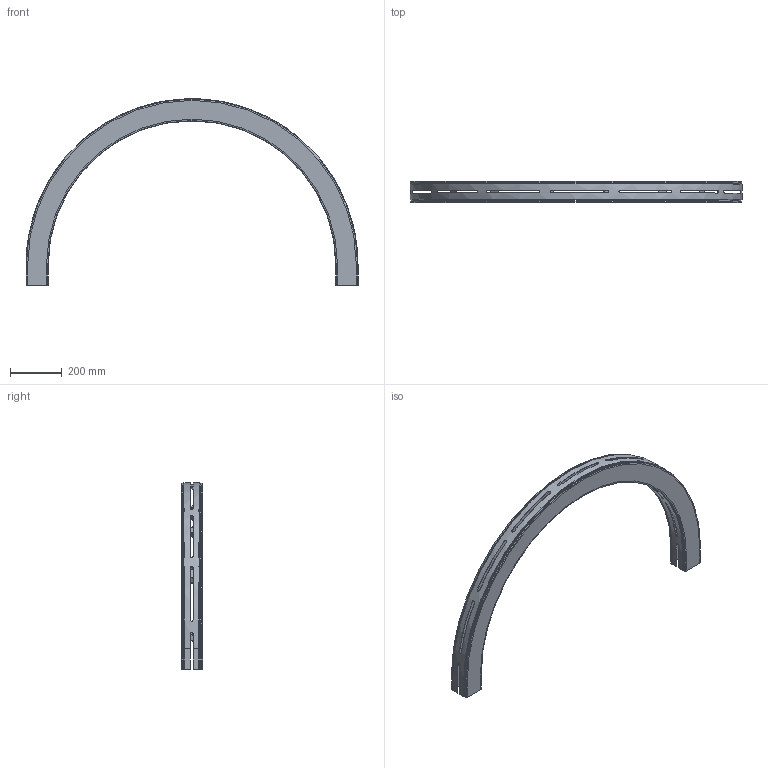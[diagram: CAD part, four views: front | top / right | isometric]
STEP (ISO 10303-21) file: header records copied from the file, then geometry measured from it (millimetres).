
FILE_DESCRIPTION(/* description */ ('GLIDKURVA SERIE 530'),/* implementation_level */ '2;1');
FILE_NAME(/* name */ '530-5375+830-2000-01.stp',/* time_stamp */ '2022-09-20T15:51:56+02:00',/* author */ ('Mathias.Dore'),/* organization */ ('CARRYLINE'),/* preprocessor_version */ 'ST-DEVELOPER v19.2',/* originating_system */ 'Autodesk Inventor 2023',/* authorisation */ '');
FILE_SCHEMA (('AUTOMOTIVE_DESIGN { 1 0 10303 214 3 1 1 }'));
Length unit declared in the file: millimetre
Products named in the file (1): 530-5375+830-2000-01
Bounding box: 1286 x 82 x 723 mm (x, y, z)
Volume: 2960795.1 mm3; surface area: 1412270 mm2
Topology: 2 solids, 2 shells, 223 faces, 626 edges, 412 vertices
Faces by surface type: plane 141, bspline 46, cylinder 28, torus 4, cone 4
Entity records: 8985 total; most frequent: CARTESIAN_POINT 3264, ORIENTED_EDGE 1252, DIRECTION 1026, EDGE_CURVE 626, VERTEX_POINT 412, LINE 398, VECTOR 398, AXIS2_PLACEMENT_3D 314
